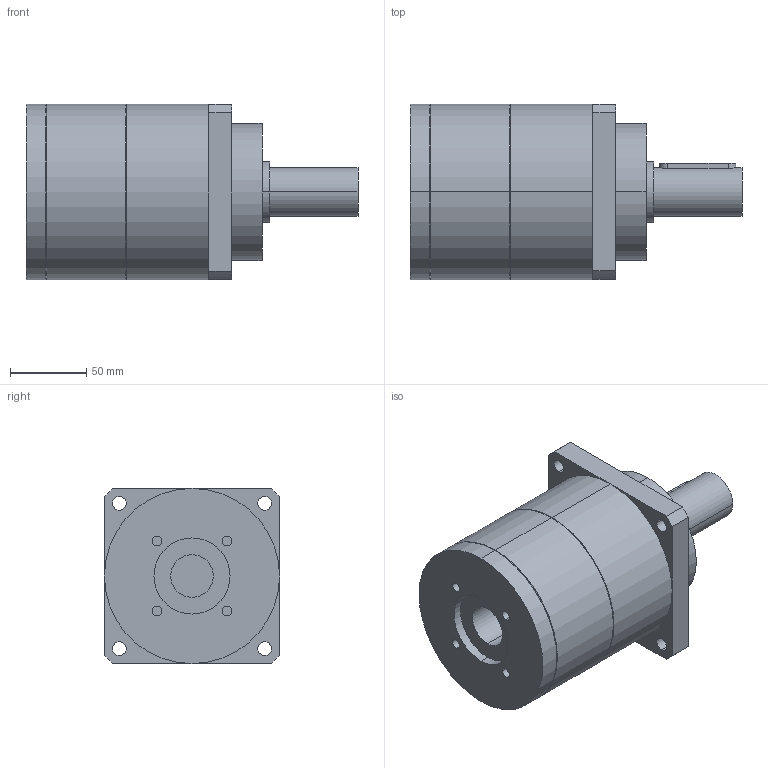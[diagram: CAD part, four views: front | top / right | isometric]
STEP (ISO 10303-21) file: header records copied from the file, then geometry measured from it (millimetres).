
FILE_DESCRIPTION(('CoCreate Modeling STEP Export'),'2;1');
FILE_NAME('GPT120_ig-3-4-5-7-10_32_B5A_28_P10.stp','2015-02-04T17:00:36',(''),(''),'CoCreate Modeling STEP processor for AP214 (Solid Model)','CoCreate Modeling 16.00C 25-Feb-2009 (C) Parametric Technology GmbH','');
FILE_SCHEMA(('AUTOMOTIVE_DESIGN { 1 0 10303 214 1 1 1 1 }'));
Length unit declared in the file: millimetre
Products named in the file (2): GPT120_ig-3-4-5-7-10_32_B5A_28_P10
Assembly tree (1 placements, depth 2):
  GPT120_ig-3-4-5-7-10_32_B5A_28_P10
    GPT120_ig-3-4-5-7-10_32_B5A_28_P10
Bounding box: 218 x 115 x 115 mm (x, y, z)
Volume: 1571023.5 mm3; surface area: 98437.8 mm2
Topology: 1 solids, 1 shells, 69 faces, 175 edges, 120 vertices
Faces by surface type: cylinder 40, plane 25, cone 4
Entity records: 2235 total; most frequent: CARTESIAN_POINT 702, ORIENTED_EDGE 350, DIRECTION 262, EDGE_CURVE 175, VERTEX_POINT 120, AXIS2_PLACEMENT_3D 98, EDGE_LOOP 89, FACE_OUTER_BOUND 69
